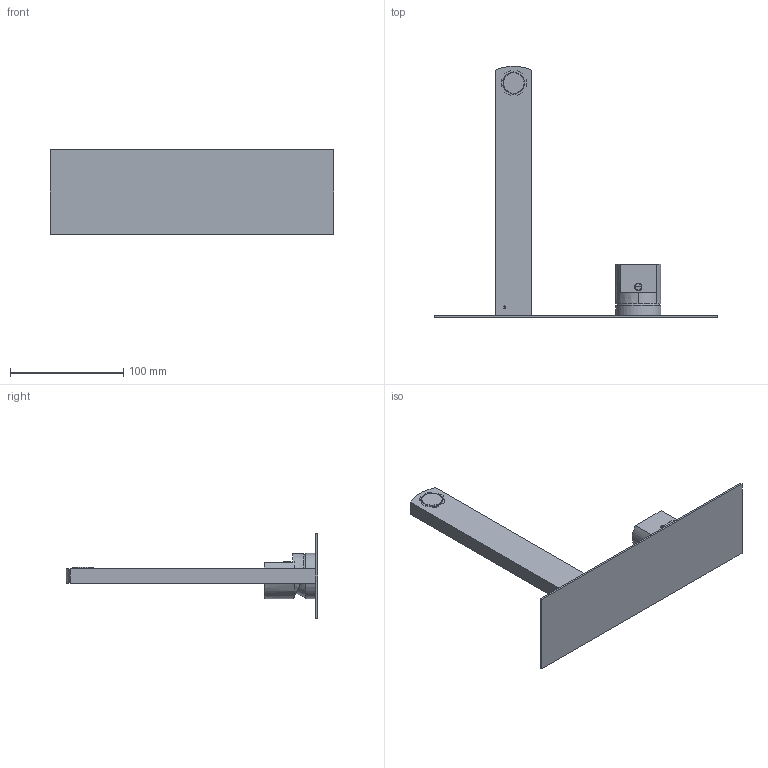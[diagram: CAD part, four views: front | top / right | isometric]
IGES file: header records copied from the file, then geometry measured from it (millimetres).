
Start section:  PTC IGES file: 8954621_sw0001.igs
Global section: file name: 8954621_sw0001.igs; native system: Creo Parametric by PTC Inc.; preprocessor: 2018100; author: carloff; organization: Unknown; date: 20200617.165025; units: millimetre
Bounding box: 250 x 221.7 x 75 mm (x, y, z)
Surface area: 70805.9 mm2 (no closed solid volume)
Topology: 0 solids, 0 shells, 187 faces, 958 edges, 954 vertices
Faces by surface type: revolution 111, bspline 76
